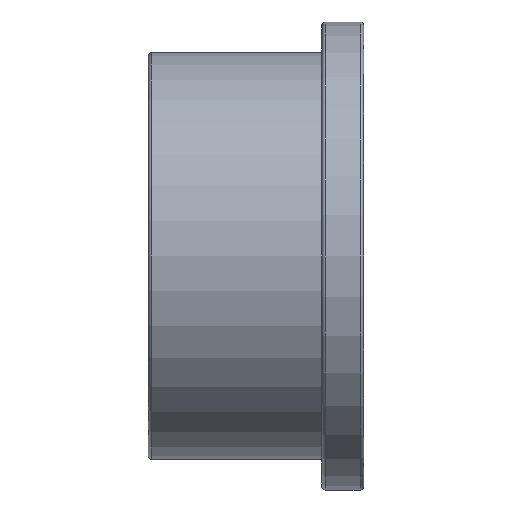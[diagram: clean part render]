
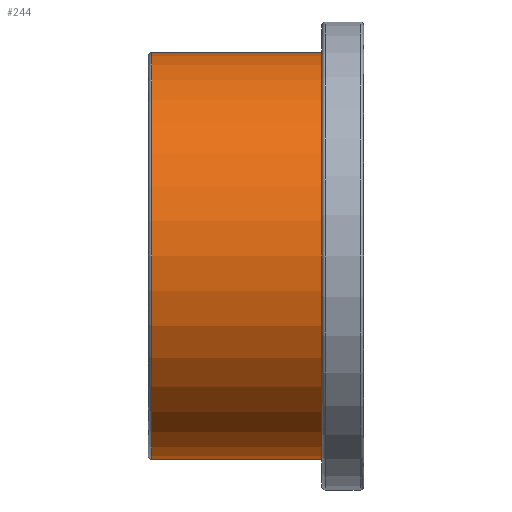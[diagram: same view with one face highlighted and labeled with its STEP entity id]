
A CAD part, front view. The second image highlights one B-rep face of the part: STEP entity #244.
In plain terms, the highlighted cylindrical face has radius 92.5 mm (diameter 185 mm), a full revolution.
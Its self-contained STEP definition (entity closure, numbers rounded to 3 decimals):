
#20=CYLINDRICAL_SURFACE('',#288,92.5);
#46=FACE_BOUND('',#108,.T.);
#67=FACE_OUTER_BOUND('',#107,.T.);
#107=EDGE_LOOP('',(#212));
#108=EDGE_LOOP('',(#213));
#130=CIRCLE('',#285,92.5);
#131=CIRCLE('',#287,92.5);
#151=VERTEX_POINT('',#433);
#152=VERTEX_POINT('',#436);
#172=EDGE_CURVE('',#151,#151,#130,.T.);
#173=EDGE_CURVE('',#152,#152,#131,.T.);
#212=ORIENTED_EDGE('',*,*,#172,.T.);
#213=ORIENTED_EDGE('',*,*,#173,.F.);
#244=ADVANCED_FACE('',(#67,#46),#20,.T.);
#285=AXIS2_PLACEMENT_3D('',#434,#366,#367);
#287=AXIS2_PLACEMENT_3D('',#437,#370,#371);
#288=AXIS2_PLACEMENT_3D('',#438,#372,#373);
#366=DIRECTION('center_axis',(-1.,0.,0.));
#367=DIRECTION('ref_axis',(0.,0.,1.));
#370=DIRECTION('center_axis',(-1.,0.,0.));
#371=DIRECTION('ref_axis',(0.,1.,0.));
#372=DIRECTION('center_axis',(-1.,0.,0.));
#373=DIRECTION('ref_axis',(0.,-1.,0.));
#433=CARTESIAN_POINT('',(79.,-92.5,0.));
#434=CARTESIAN_POINT('Origin',(79.,0.,0.));
#436=CARTESIAN_POINT('',(1.6,-92.5,0.));
#437=CARTESIAN_POINT('Origin',(1.6,0.,0.));
#438=CARTESIAN_POINT('Origin',(39.5,0.,0.));
